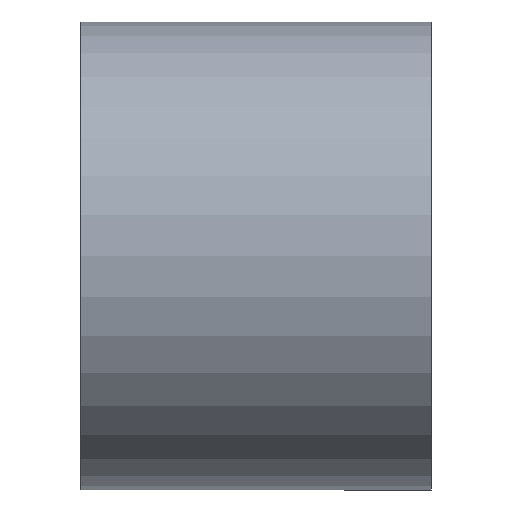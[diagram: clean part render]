
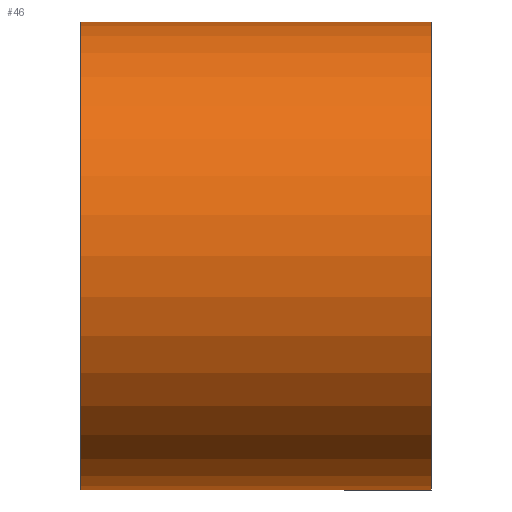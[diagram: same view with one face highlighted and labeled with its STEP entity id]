
A CAD part, front view. The second image highlights one B-rep face of the part: STEP entity #46.
In plain terms, the highlighted cylindrical face has radius 50 mm (diameter 100 mm), a partial arc.
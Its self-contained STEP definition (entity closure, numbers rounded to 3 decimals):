
#13 = DIRECTION ( 'NONE',  ( 0., 0., 1. ) ) ;
#22 = VERTEX_POINT ( 'NONE', #571 ) ;
#46 = ADVANCED_FACE ( 'NONE', ( #399 ), #682, .T. ) ;
#50 = VECTOR ( 'NONE', #487, 1000. ) ;
#62 = DIRECTION ( 'NONE',  ( -1., 0., 0. ) ) ;
#75 = VECTOR ( 'NONE', #422, 1000. ) ;
#81 = VERTEX_POINT ( 'NONE', #560 ) ;
#102 = CIRCLE ( 'NONE', #674, 50. ) ;
#115 = CARTESIAN_POINT ( 'NONE',  ( 37.5, 0., 0. ) ) ;
#156 = CARTESIAN_POINT ( 'NONE',  ( -37.5, 0., -50. ) ) ;
#157 = CARTESIAN_POINT ( 'NONE',  ( 37.5, 0., -50. ) ) ;
#185 = EDGE_CURVE ( 'NONE', #233, #22, #102, .T. ) ;
#190 = ORIENTED_EDGE ( 'NONE', *, *, #486, .T. ) ;
#233 = VERTEX_POINT ( 'NONE', #156 ) ;
#263 = CARTESIAN_POINT ( 'NONE',  ( 0., 0., 0. ) ) ;
#272 = DIRECTION ( 'NONE',  ( 0., 0., 1. ) ) ;
#277 = CARTESIAN_POINT ( 'NONE',  ( -37.5, 0., 0. ) ) ;
#284 = AXIS2_PLACEMENT_3D ( 'NONE', #263, #62, #272 ) ;
#292 = DIRECTION ( 'NONE',  ( 0., 0., 1. ) ) ;
#301 = LINE ( 'NONE', #476, #50 ) ;
#304 = ORIENTED_EDGE ( 'NONE', *, *, #330, .T. ) ;
#308 = EDGE_CURVE ( 'NONE', #415, #233, #301, .T. ) ;
#320 = LINE ( 'NONE', #647, #75 ) ;
#330 = EDGE_CURVE ( 'NONE', #81, #22, #320, .T. ) ;
#399 = FACE_OUTER_BOUND ( 'NONE', #723, .T. ) ;
#401 = DIRECTION ( 'NONE',  ( -1., 0., 0. ) ) ;
#415 = VERTEX_POINT ( 'NONE', #157 ) ;
#422 = DIRECTION ( 'NONE',  ( -1., 0., 0. ) ) ;
#476 = CARTESIAN_POINT ( 'NONE',  ( 0., 0., -50. ) ) ;
#486 = EDGE_CURVE ( 'NONE', #415, #81, #558, .T. ) ;
#487 = DIRECTION ( 'NONE',  ( -1., 0., 0. ) ) ;
#558 = CIRCLE ( 'NONE', #625, 50. ) ;
#560 = CARTESIAN_POINT ( 'NONE',  ( 37.5, 0., 50. ) ) ;
#571 = CARTESIAN_POINT ( 'NONE',  ( -37.5, 0., 50. ) ) ;
#591 = ORIENTED_EDGE ( 'NONE', *, *, #308, .F. ) ;
#625 = AXIS2_PLACEMENT_3D ( 'NONE', #115, #401, #292 ) ;
#631 = DIRECTION ( 'NONE',  ( -1., 0., 0. ) ) ;
#647 = CARTESIAN_POINT ( 'NONE',  ( 0., 0., 50. ) ) ;
#674 = AXIS2_PLACEMENT_3D ( 'NONE', #277, #631, #13 ) ;
#682 = CYLINDRICAL_SURFACE ( 'NONE', #284, 50. ) ;
#683 = ORIENTED_EDGE ( 'NONE', *, *, #185, .F. ) ;
#723 = EDGE_LOOP ( 'NONE', ( #591, #190, #304, #683 ) ) ;
